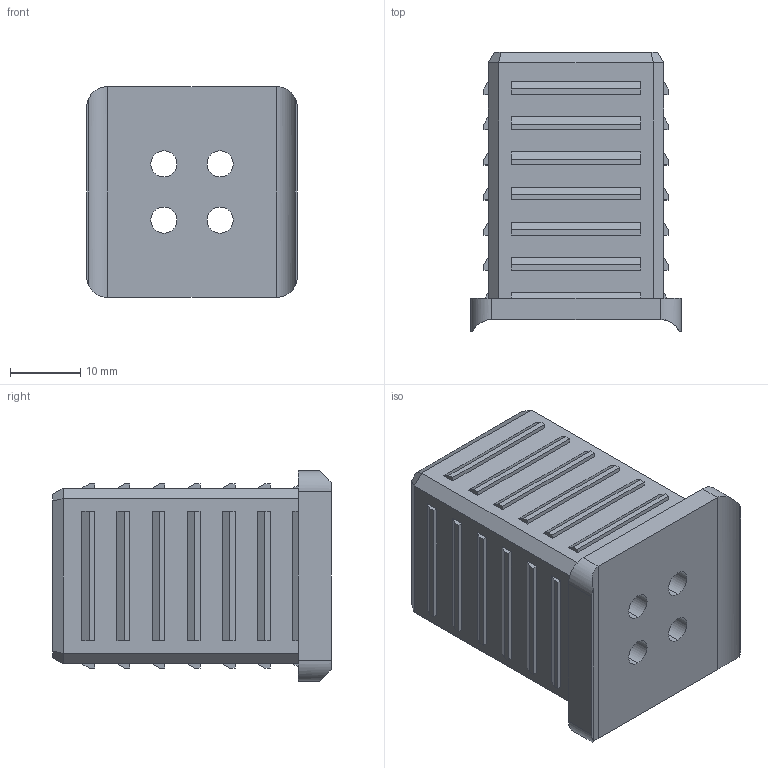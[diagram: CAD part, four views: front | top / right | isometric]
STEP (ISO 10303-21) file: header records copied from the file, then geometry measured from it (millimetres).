
FILE_DESCRIPTION (( 'STEP AP203' ), '1' );
FILE_NAME ('013.030.105.STEP', '2020-09-28T06:30:25', ( '' ), ( '' ), 'SwSTEP 2.0', 'SolidWorks 2018', '' );
FILE_SCHEMA (( 'CONFIG_CONTROL_DESIGN' ));
Length unit declared in the file: millimetre
Products named in the file (1): 013.030.105
Bounding box: 30 x 39.7 x 30 mm (x, y, z)
Volume: 9872 mm3; surface area: 9901 mm2
Topology: 1 solids, 1 shells, 229 faces, 592 edges, 392 vertices
Faces by surface type: plane 195, cylinder 34
Entity records: 7023 total; most frequent: CARTESIAN_POINT 1262, ORIENTED_EDGE 1184, DIRECTION 1116, EDGE_CURVE 592, VECTOR 520, LINE 520, VERTEX_POINT 392, AXIS2_PLACEMENT_3D 298
